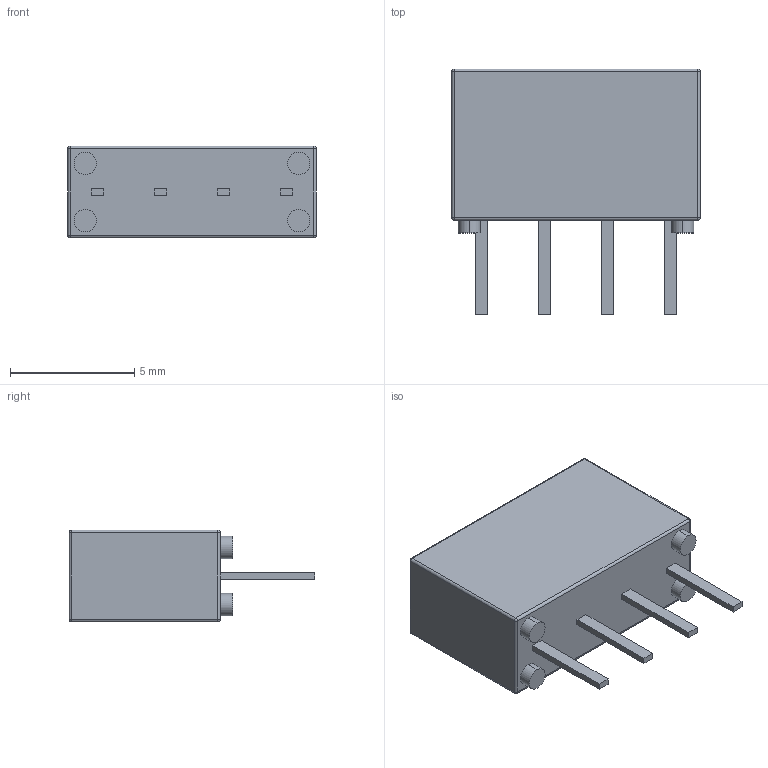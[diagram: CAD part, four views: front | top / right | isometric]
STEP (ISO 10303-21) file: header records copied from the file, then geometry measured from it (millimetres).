
FILE_DESCRIPTION (( 'STEP AP203' ), '1' );
FILE_NAME ('111P-1-A.STEP', '2010-06-29T10:58:12', ( ' ' ), ( '' ), 'SwSTEP 2.0', 'SolidWorks 2009', '' );
FILE_SCHEMA (( 'CONFIG_CONTROL_DESIGN' ));
Length unit declared in the file: millimetre
Products named in the file (1): 111P-1-A
Bounding box: 10 x 9.9 x 3.7 mm (x, y, z)
Volume: 228.5 mm3; surface area: 266.5 mm2
Topology: 1 solids, 1 shells, 381 faces, 986 edges, 644 vertices
Faces by surface type: plane 275, bspline 76, cylinder 22, sphere 8
Entity records: 15633 total; most frequent: CARTESIAN_POINT 6768, ORIENTED_EDGE 1956, DIRECTION 1482, EDGE_CURVE 978, LINE 782, VECTOR 782, VERTEX_POINT 644, EDGE_LOOP 426
